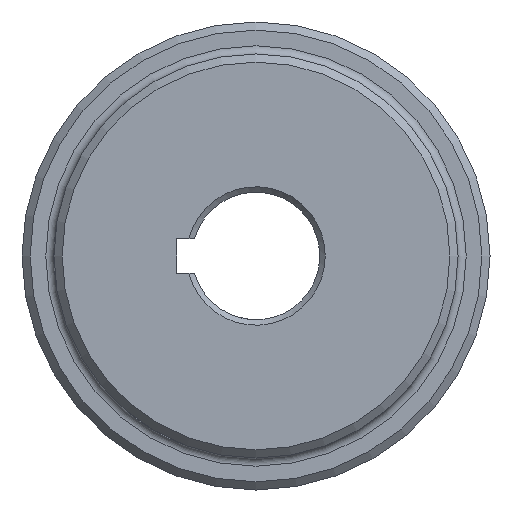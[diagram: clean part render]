
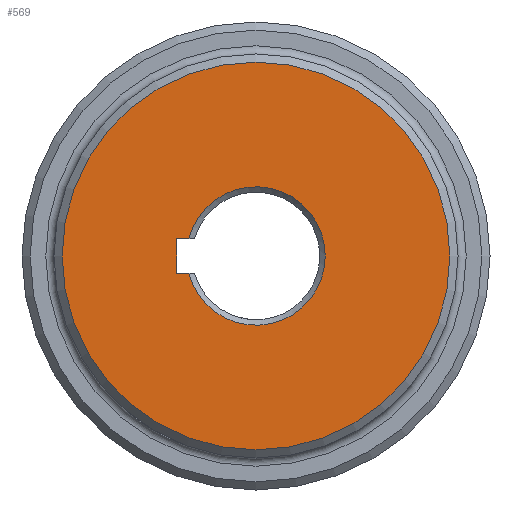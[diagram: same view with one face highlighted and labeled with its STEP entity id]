
A CAD part, left-side view. The second image highlights one B-rep face of the part: STEP entity #569.
In plain terms, the highlighted planar face has unit normal (-1, 0, 0).
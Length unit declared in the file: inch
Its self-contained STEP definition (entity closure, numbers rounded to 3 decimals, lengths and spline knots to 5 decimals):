
#136 = LINE ( 'NONE', #354, #1604 ) ;
#155 = ORIENTED_EDGE ( 'NONE', *, *, #1399, .F. ) ;
#173 = DIRECTION ( 'NONE',  ( 0., 1., 0. ) ) ;
#271 = VERTEX_POINT ( 'NONE', #996 ) ;
#277 = AXIS2_PLACEMENT_3D ( 'NONE', #2133, #461, #1253 ) ;
#302 = ORIENTED_EDGE ( 'NONE', *, *, #2057, .T. ) ;
#325 = DIRECTION ( 'NONE',  ( 1., 0., 0. ) ) ;
#354 = CARTESIAN_POINT ( 'NONE',  ( 0., 0., -0.125 ) ) ;
#384 = CARTESIAN_POINT ( 'NONE',  ( 0., 0.5831, -0.125 ) ) ;
#394 = CARTESIAN_POINT ( 'NONE',  ( 0., 0., 0. ) ) ;
#458 = VERTEX_POINT ( 'NONE', #681 ) ;
#461 = DIRECTION ( 'NONE',  ( 1., 0., 0. ) ) ;
#474 = ORIENTED_EDGE ( 'NONE', *, *, #928, .F. ) ;
#502 = AXIS2_PLACEMENT_3D ( 'NONE', #1572, #588, #878 ) ;
#514 = DIRECTION ( 'NONE',  ( 0., 0., -1. ) ) ;
#559 = EDGE_CURVE ( 'NONE', #271, #2182, #925, .T. ) ;
#569 = ADVANCED_FACE ( 'NONE', ( #1440, #2020 ), #1147, .F. ) ;
#588 = DIRECTION ( 'NONE',  ( -1., 0., 0. ) ) ;
#681 = CARTESIAN_POINT ( 'NONE',  ( 0., 0.5831, -0.125 ) ) ;
#783 = CARTESIAN_POINT ( 'NONE',  ( 0., 0.5831, 0.125 ) ) ;
#870 = EDGE_LOOP ( 'NONE', ( #302 ) ) ;
#878 = DIRECTION ( 'NONE',  ( 0., 0., -1. ) ) ;
#903 = CARTESIAN_POINT ( 'NONE',  ( 0., 0.49331, -0.125 ) ) ;
#918 = ORIENTED_EDGE ( 'NONE', *, *, #559, .T. ) ;
#925 = CIRCLE ( 'NONE', #1514, 0.5089 ) ;
#928 = EDGE_CURVE ( 'NONE', #458, #2182, #136, .T. ) ;
#996 = CARTESIAN_POINT ( 'NONE',  ( 0., 0.49331, 0.125 ) ) ;
#1095 = ORIENTED_EDGE ( 'NONE', *, *, #1198, .F. ) ;
#1101 = DIRECTION ( 'NONE',  ( 0., -1., 0. ) ) ;
#1102 = CARTESIAN_POINT ( 'NONE',  ( 0., 0., 0.125 ) ) ;
#1132 = LINE ( 'NONE', #384, #1358 ) ;
#1147 = PLANE ( 'NONE',  #277 ) ;
#1198 = EDGE_CURVE ( 'NONE', #1717, #458, #1132, .T. ) ;
#1246 = CARTESIAN_POINT ( 'NONE',  ( 0., 0., -1.425 ) ) ;
#1253 = DIRECTION ( 'NONE',  ( 0., 0., -1. ) ) ;
#1279 = LINE ( 'NONE', #1102, #2093 ) ;
#1358 = VECTOR ( 'NONE', #514, 39.37008 ) ;
#1390 = EDGE_LOOP ( 'NONE', ( #155, #918, #474, #1095 ) ) ;
#1399 = EDGE_CURVE ( 'NONE', #271, #1717, #1279, .T. ) ;
#1440 = FACE_OUTER_BOUND ( 'NONE', #870, .T. ) ;
#1491 = CIRCLE ( 'NONE', #502, 1.425 ) ;
#1514 = AXIS2_PLACEMENT_3D ( 'NONE', #394, #325, #2167 ) ;
#1572 = CARTESIAN_POINT ( 'NONE',  ( 0., 0., 0. ) ) ;
#1604 = VECTOR ( 'NONE', #1101, 39.37008 ) ;
#1717 = VERTEX_POINT ( 'NONE', #783 ) ;
#2020 = FACE_BOUND ( 'NONE', #1390, .T. ) ;
#2057 = EDGE_CURVE ( 'NONE', #2229, #2229, #1491, .T. ) ;
#2093 = VECTOR ( 'NONE', #173, 39.37008 ) ;
#2133 = CARTESIAN_POINT ( 'NONE',  ( 0., 0., 0. ) ) ;
#2167 = DIRECTION ( 'NONE',  ( 0., 0., -1. ) ) ;
#2182 = VERTEX_POINT ( 'NONE', #903 ) ;
#2229 = VERTEX_POINT ( 'NONE', #1246 ) ;
